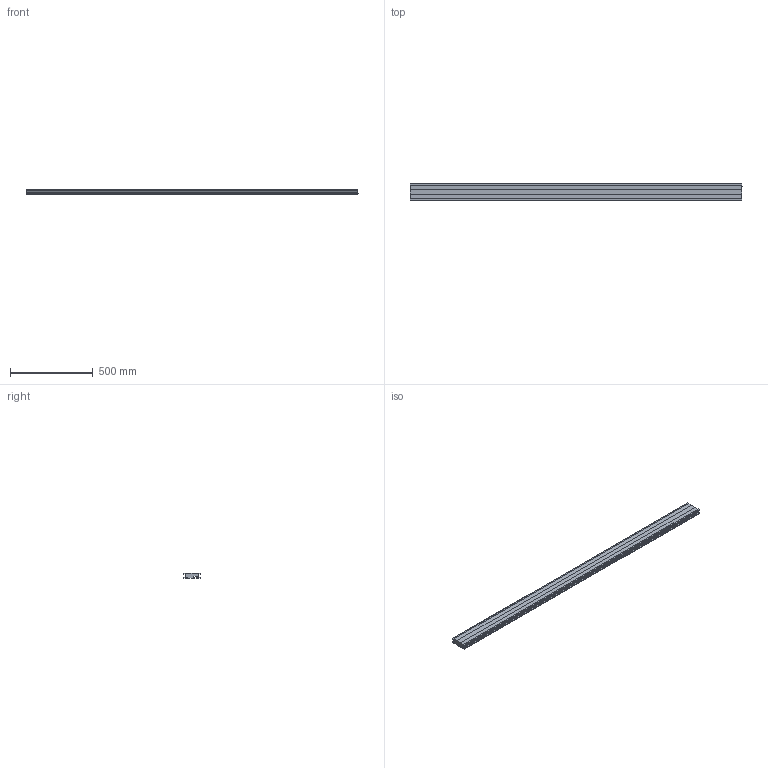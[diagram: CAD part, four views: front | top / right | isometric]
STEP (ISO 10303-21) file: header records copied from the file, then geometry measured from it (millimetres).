
FILE_DESCRIPTION (( 'STEP AP214' ), '1' );
FILE_NAME ('04565.STEP', '2014-03-31T09:27:01', ( '' ), ( '' ), 'SwSTEP 2.0', 'SolidWorks 2014', '' );
FILE_SCHEMA (( 'AUTOMOTIVE_DESIGN' ));
Length unit declared in the file: millimetre
Products named in the file (1): 04565
Bounding box: 2000 x 100 x 31.4 mm (x, y, z)
Volume: 4695063.1 mm3; surface area: 737131.3 mm2
Topology: 1 solids, 1 shells, 96 faces, 282 edges, 188 vertices
Faces by surface type: cylinder 48, plane 48
Entity records: 3278 total; most frequent: DIRECTION 572, CARTESIAN_POINT 567, ORIENTED_EDGE 564, EDGE_CURVE 282, AXIS2_PLACEMENT_3D 193, VERTEX_POINT 188, LINE 186, VECTOR 186
